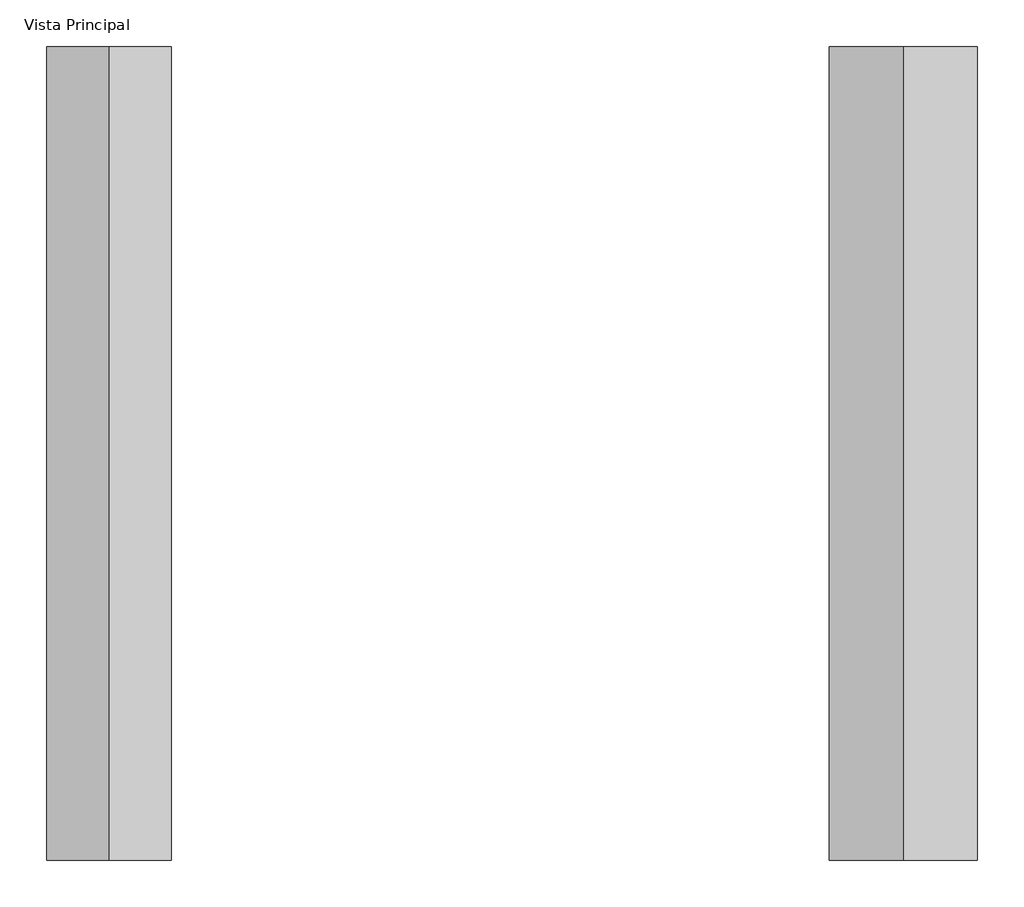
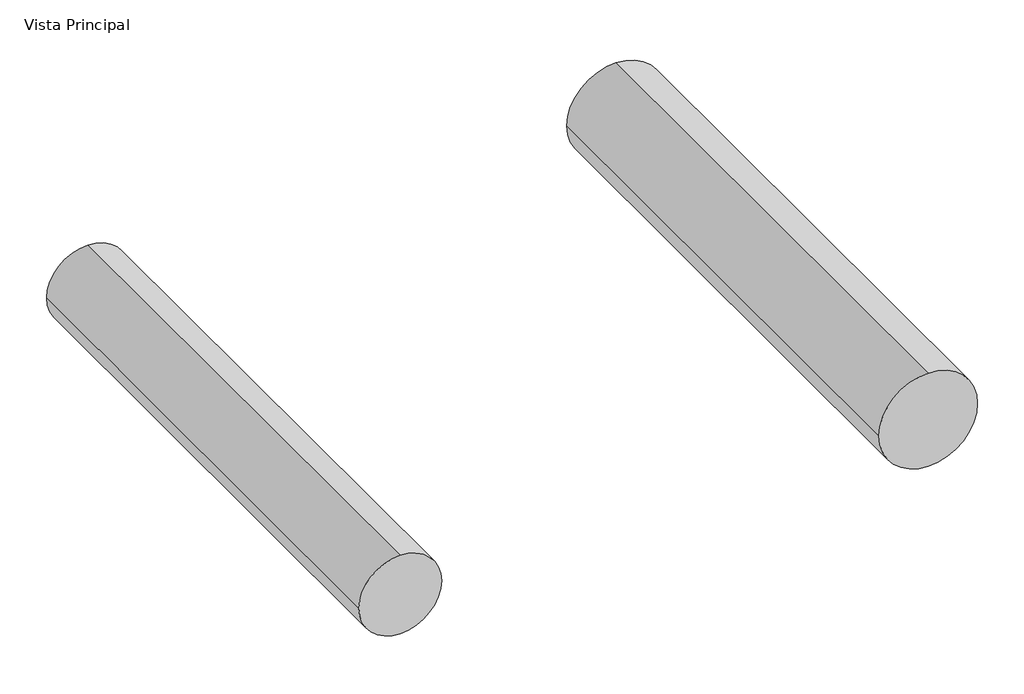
# One storey: 2 pipe segments.
"""IFC4 building model written with IfcOpenShell, lengths in millimetres."""

from ifc_helpers import new_model, si_unit, point, frame, frame_2d, origin, place, context, project, spatial, circle_curve, trimmed, segment, composite_curve, outline, extrude, element, save

model = new_model("IFC4")

# Units and contexts
model_context = context("Model", 3, world=origin())
ifc_project = project(units=[si_unit("LENGTHUNIT", "METRE", prefix="MILLI")], contexts=[model_context])

# Site, building, storey
site = spatial("IfcSite", under=ifc_project)
building = spatial("IfcBuilding", under=site)
storey = spatial("IfcBuildingStorey", under=building, Name="Vista Principal", Elevation=0.0)

# Pipe segments
placement = place(None, origin())
element("IfcPipeSegment", 1, ObjectType="AmancoWavin_Biaxial_Sistema Métrico (6 mts)", at=placement, inside=storey, context=model_context, shape_type="SweptSolid", body=[
    extrude(outline(composite_curve([segment(trimmed(circle_curve(frame_2d((0.0, 2277.2550143)), 100.15), [point((0.0, 2177.1050143))], [point((-100.15, 2277.2550143))], False, "CARTESIAN"), True, "CONTINUOUS"), segment(trimmed(circle_curve(frame_2d((0.0, 2277.2550143)), 100.15), [point((-100.15, 2277.2550143))], [point((0.0, 2377.4050143))], False, "CARTESIAN"), True, "CONTINUOUS"), segment(trimmed(circle_curve(frame_2d((0.0, 2277.2550143)), 100.15), [point((0.0, 2377.4050143))], [point((100.15, 2277.2550143))], False, "CARTESIAN"), True, "CONTINUOUS"), segment(trimmed(circle_curve(frame_2d((0.0, 2277.2550143)), 100.15), [point((100.15, 2277.2550143))], [point((0.0, 2177.1050143))], False, "CARTESIAN"), True, "CONTINUOUS")], self_intersect=False)), frame((0.0, 502.4339138, 0.0), z_axis=(0.0, 1.0, 0.0), x_axis=(0.0, 0.0, 1.0)), (0.0, 0.0, 1.0), 1100.0),
])
element("IfcPipeSegment", 2, ObjectType="AmancoWavin_Biaxial_Sistema Inglés (6 mts)", at=placement, inside=storey, context=model_context, shape_type="SweptSolid", body=[
    extrude(outline(composite_curve([segment(trimmed(circle_curve(frame_2d((0.0, 1203.3312225)), 84.14), [point((0.0, 1119.1912225))], [point((-84.14, 1203.3312225))], False, "CARTESIAN"), True, "CONTINUOUS"), segment(trimmed(circle_curve(frame_2d((0.0, 1203.3312225)), 84.14), [point((-84.14, 1203.3312225))], [point((0.0, 1287.4712225))], False, "CARTESIAN"), True, "CONTINUOUS"), segment(trimmed(circle_curve(frame_2d((0.0, 1203.3312225)), 84.14), [point((0.0, 1287.4712225))], [point((84.14, 1203.3312225))], False, "CARTESIAN"), True, "CONTINUOUS"), segment(trimmed(circle_curve(frame_2d((0.0, 1203.3312225)), 84.14), [point((84.14, 1203.3312225))], [point((0.0, 1119.1912225))], False, "CARTESIAN"), True, "CONTINUOUS")], self_intersect=False)), frame((0.0, 502.4339138, 0.0), z_axis=(0.0, 1.0, 0.0), x_axis=(0.0, 0.0, 1.0)), (0.0, 0.0, 1.0), 1100.0),
])

save(model, "model.ifc")
